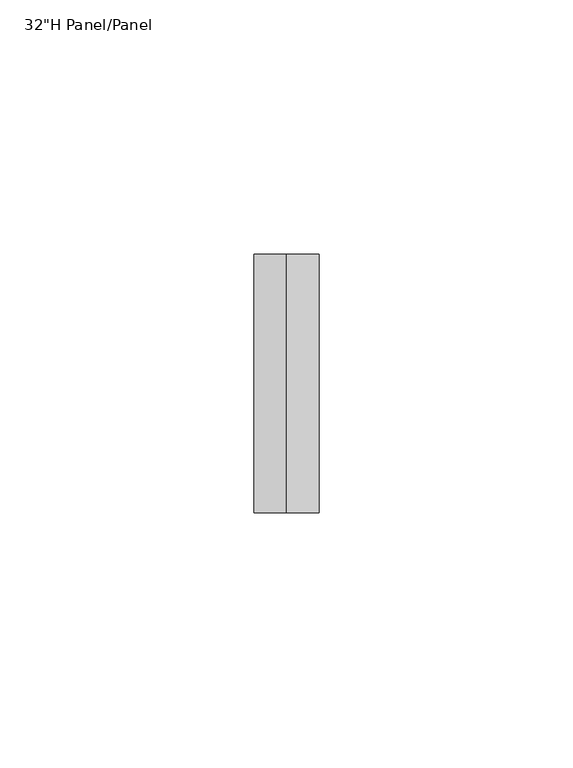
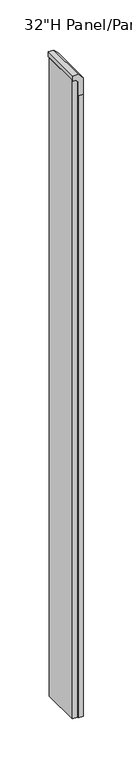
"""IFC4 building model written with IfcOpenShell, lengths in millimetres: furniture geometry."""

import ifcopenshell
import ifcopenshell.guid

model = None  # the IFC model being written
_history = None  # IfcOwnerHistory: only IFC2X3 demands one
_inside = {}  # id of a spatial element -> (the spatial element, [elements in it])
_under = {}  # id of a project, library or spatial element -> (it, [spatial elements below it])
_declared = {}  # id of a project -> (the project, [libraries it declares])
_typed = {}  # id of a type object -> (the type object, [elements of that type])
_made_of = {}  # id of a material, layer set ... -> (it, [elements and type objects made of it])


def new_model(schema):
    """Start an empty IFC model of exactly this schema.

    Asked for "IFC4X3", IfcOpenShell would pick the latest addendum, in which some entities
    have other attributes; the version numbers below select the first issue.
    IFC2X3 requires an IfcOwnerHistory on every rooted entity: one is made here for all.
    """
    global model, _history
    if schema == "IFC4X3":
        model = ifcopenshell.file(schema_version=(4, 3, 0, 0))
    else:
        model = ifcopenshell.file(schema=schema)
    _inside.clear()
    _under.clear()
    _declared.clear()
    _typed.clear()
    _made_of.clear()
    _history = None
    if model.schema == "IFC2X3":
        org = make("IfcOrganization", Name="unknown")
        user = make(
            "IfcPersonAndOrganization",
            ThePerson=make("IfcPerson", FamilyName="unknown"),
            TheOrganization=org,
        )
        app = make(
            "IfcApplication",
            ApplicationDeveloper=org,
            Version="unknown",
            ApplicationFullName="unknown",
            ApplicationIdentifier="unknown",
        )
        _history = make(
            "IfcOwnerHistory",
            OwningUser=user,
            OwningApplication=app,
            ChangeAction="ADDED",
            CreationDate=0,
        )
    return model


def make(cls, **values):
    """One entity of the class cls with the attributes given. An attribute that is None is left unset."""
    return model.create_entity(
        cls, **{name: value for name, value in values.items() if value is not None}
    )


def rooted(cls, **values):
    """An entity with a GlobalId (a new one), such as an element, a storey or a relation."""
    return make(cls, GlobalId=ifcopenshell.guid.new(), OwnerHistory=_history, **values)


def si_unit(unit_type, name, prefix=None):
    """IfcSIUnit, for example si_unit("LENGTHUNIT", "METRE", prefix="MILLI")."""
    return make("IfcSIUnit", UnitType=unit_type, Prefix=prefix, Name=name)


def assignment(units):
    """IfcUnitAssignment: the units of a project."""
    return None if units is None else make("IfcUnitAssignment", Units=units)


def point(xyz):
    """IfcCartesianPoint."""
    return None if xyz is None else make("IfcCartesianPoint", Coordinates=xyz)


def direction(xyz):
    """IfcDirection."""
    return None if xyz is None else make("IfcDirection", DirectionRatios=xyz)


def frame(location, z_axis=None, x_axis=None):
    """IfcAxis2Placement3D, a coordinate frame: its origin and axes. An axis left out is left unset."""
    return make(
        "IfcAxis2Placement3D",
        Location=point(location),
        Axis=direction(z_axis),
        RefDirection=direction(x_axis),
    )


def origin():
    """The frame at (0, 0, 0) with its axes left unset."""
    return frame((0.0, 0.0, 0.0))


def place(relative_to, where):
    """IfcLocalPlacement: puts the frame where relative to a parent placement (None: the world)."""
    return make(
        "IfcLocalPlacement", PlacementRelTo=relative_to, RelativePlacement=where
    )


def context(
    kind, dimensions, precision=None, world=None, true_north=None, identifier=None
):
    """IfcGeometricRepresentationContext, for example the 3D "Model" context."""
    return make(
        "IfcGeometricRepresentationContext",
        ContextIdentifier=identifier,
        ContextType=kind,
        CoordinateSpaceDimension=dimensions,
        Precision=precision,
        WorldCoordinateSystem=world,
        TrueNorth=true_north,
    )


def project(units=None, contexts=None):
    """IfcProject with its units and contexts."""
    return rooted(
        "IfcProject",
        Name="project",
        RepresentationContexts=contexts,
        UnitsInContext=assignment(units),
    )


def spatial(cls, under=None, at=None, **own):
    """A site, building, storey or space (cls), placed at a placement, below another one or the project."""
    s = rooted(cls, ObjectPlacement=at, **own)
    if under is not None:
        _under.setdefault(under.id(), (under, []))[1].append(s)
    return s


def polyline(points):
    """IfcPolyline through the points."""
    return make("IfcPolyline", Points=[point(p) for p in points])


def outline(outer, holes=None, kind="AREA"):
    """IfcArbitraryClosedProfileDef: a profile drawn as a closed curve; with holes, ...WithVoids."""
    if holes is None:
        return make("IfcArbitraryClosedProfileDef", ProfileType=kind, OuterCurve=outer)
    return make(
        "IfcArbitraryProfileDefWithVoids",
        ProfileType=kind,
        OuterCurve=outer,
        InnerCurves=holes,
    )


def extrude(swept, where, along, depth):
    """IfcExtrudedAreaSolid: the profile swept, set in the frame where, extruded along a direction by depth."""
    return make(
        "IfcExtrudedAreaSolid",
        SweptArea=swept,
        Position=where,
        ExtrudedDirection=direction(along),
        Depth=depth,
    )


def shape(context_of_items, identifier, shape_type, items):
    """IfcShapeRepresentation: the items that make up one representation, for example the "Body"."""
    return make(
        "IfcShapeRepresentation",
        ContextOfItems=context_of_items,
        RepresentationIdentifier=identifier,
        RepresentationType=shape_type,
        Items=items,
    )


def source(mapping_origin, context_of_items, identifier, shape_type, items):
    """IfcRepresentationMap: a shape defined once, which mapped items show again and again."""
    return make(
        "IfcRepresentationMap",
        MappingOrigin=mapping_origin,
        MappedRepresentation=shape(context_of_items, identifier, shape_type, items),
    )


def transform(
    local_origin,
    x_axis=None,
    y_axis=None,
    z_axis=None,
    scale=None,
    scale2=None,
    scale3=None,
    uniform=True,
):
    """IfcCartesianTransformationOperator3D, or its non-uniform kind. x_axis, y_axis, z_axis: its Axis1, 2, 3."""
    if uniform:
        return make(
            "IfcCartesianTransformationOperator3D",
            Axis1=direction(x_axis),
            Axis2=direction(y_axis),
            LocalOrigin=point(local_origin),
            Scale=scale,
            Axis3=direction(z_axis),
        )
    return make(
        "IfcCartesianTransformationOperator3DnonUniform",
        Axis1=direction(x_axis),
        Axis2=direction(y_axis),
        LocalOrigin=point(local_origin),
        Scale=scale,
        Axis3=direction(z_axis),
        Scale2=scale2,
        Scale3=scale3,
    )


def mapped(mapping_source, mapping_target):
    """IfcMappedItem: shows the shape of a source again, moved by a transform."""
    return make(
        "IfcMappedItem", MappingSource=mapping_source, MappingTarget=mapping_target
    )


def made_of(thing, what):
    """Note that an element or type object is made of a material, layer set ...; save() writes the relation."""
    if what is not None:
        _made_of.setdefault(what.id(), (what, []))[1].append(thing)
    return thing


def element(
    cls,
    number,
    at=None,
    inside=None,
    cuts=None,
    type_object=None,
    material=None,
    context=None,
    identifier="Body",
    shape_type=None,
    held_by="IfcProductDefinitionShape",
    body=None,
    shapes=None,
    **own,
):
    """One element of the class cls, such as IfcWall. Its Tag is "e" and its number.

    at: its placement. inside: the storey or other place that contains it. cuts: it is an
    opening in that element (IfcRelVoidsElement). A single representation is given by context,
    identifier, shape_type and body (its items); several are given by shapes. held_by: the class
    of the entity that holds the representations. save() writes the other relations.
    """
    e = rooted(cls, Tag="e%d" % number, ObjectPlacement=at, **own)
    if body is not None:
        shapes = [shape(context, identifier, shape_type, body)]
    if shapes is not None:
        e.Representation = make(held_by, Representations=shapes)
    if inside is not None:
        _inside.setdefault(inside.id(), (inside, []))[1].append(e)
    if cuts is not None:
        rooted(
            "IfcRelVoidsElement", RelatingBuildingElement=cuts, RelatedOpeningElement=e
        )
    if type_object is not None:
        _typed.setdefault(type_object.id(), (type_object, []))[1].append(e)
    return made_of(e, material)


def aggregate(whole, parts):
    """IfcRelAggregates: a whole, such as a stair, and the parts it consists of."""
    return rooted("IfcRelAggregates", RelatingObject=whole, RelatedObjects=parts)


def save(model, path):
    """Write the relations noted so far, then the file.

    IfcRelAggregates (storeys below a building ...), IfcRelContainedInSpatialStructure (elements
    in a storey), IfcRelDefinesByType, IfcRelAssociatesMaterial and IfcRelDeclares: one each for
    every whole, place, type object, material and project.
    """
    for whole, parts in _under.values():
        aggregate(whole, parts)
    for where, things in _inside.values():
        rooted(
            "IfcRelContainedInSpatialStructure",
            RelatedElements=things,
            RelatingStructure=where,
        )
    for kind, things in _typed.values():
        rooted("IfcRelDefinesByType", RelatedObjects=things, RelatingType=kind)
    for what, things in _made_of.values():
        rooted("IfcRelAssociatesMaterial", RelatedObjects=things, RelatingMaterial=what)
    for by, libraries in _declared.values():
        rooted("IfcRelDeclares", RelatingContext=by, RelatedDefinitions=libraries)
    model.write(path)


def furniture_b46e1aaf(model_context):
    return source(origin(), model_context, "Body", "SweptSolid", [
        extrude(outline(polyline([(-3.2542206, 0.0), (0.0, 0.0), (0.0, -806.4499992), (-6.3499979, -806.4499992), (-6.3499979, -3.095777), (-3.2542206, 0.0)])), frame((-73.2209946, 55.7584941, 1704.975), z_axis=(-4.184583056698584e-08, 0.9999999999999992, 0.0), x_axis=(-0.9999999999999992, -4.184583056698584e-08, 0.0)), (0.0, 0.0, 1.0), 47.6250029),
        extrude(outline(polyline([(1704.975, -73.2209945), (1704.975, -69.9667739), (1701.879223, -66.8709967), (1684.3375008, -66.8709967), (1684.3375008, -60.5209967), (1704.975, -60.5209967), (1711.325, -66.8709967), (1711.325, -73.2209945), (1704.975, -73.2209945)])), frame((0.0, 54.1709919, 0.0), z_axis=(0.0, 1.0, 0.0), x_axis=(0.0, 0.0, 1.0)), (0.0, 0.0, 1.0), 50.8),
        extrude(outline(polyline([(-60.5209988, 104.9709924), (-60.5209967, 54.1709916), (-66.8709967, 54.1709914), (-66.8709988, 104.9709922), (-60.5209988, 104.9709924)])), frame((0.0, 0.0, 898.5250008), z_axis=(0.0, 0.0, 1.0), x_axis=(1.0, 0.0, 0.0)), (0.0, 0.0, 1.0), 785.8125),
    ])


if __name__ == "__main__":
    model = new_model("IFC4")
    model_context = context("Model", 3, world=origin())
    ifc_project = project(units=[si_unit("LENGTHUNIT", "METRE", prefix="MILLI")], contexts=[model_context])
    site = spatial("IfcSite", under=ifc_project)
    building = spatial("IfcBuilding", under=site)
    placement = place(None, origin())
    furniture_shape = furniture_b46e1aaf(model_context)
    element("IfcFurniture", 1, ObjectType="HermanMiller_ActionOffice_AO259_AO272_FinishedEndChangeOfHeight : 32\"H Panel/Panel", at=placement, inside=building, context=model_context, shape_type="MappedRepresentation", body=[
        mapped(furniture_shape, transform((0.0, 0.0, 0.0), x_axis=(1.0, 0.0, 0.0), y_axis=(0.0, 1.0, 0.0), z_axis=(0.0, 0.0, 1.0))),
    ])
    save(model, "model.ifc")
